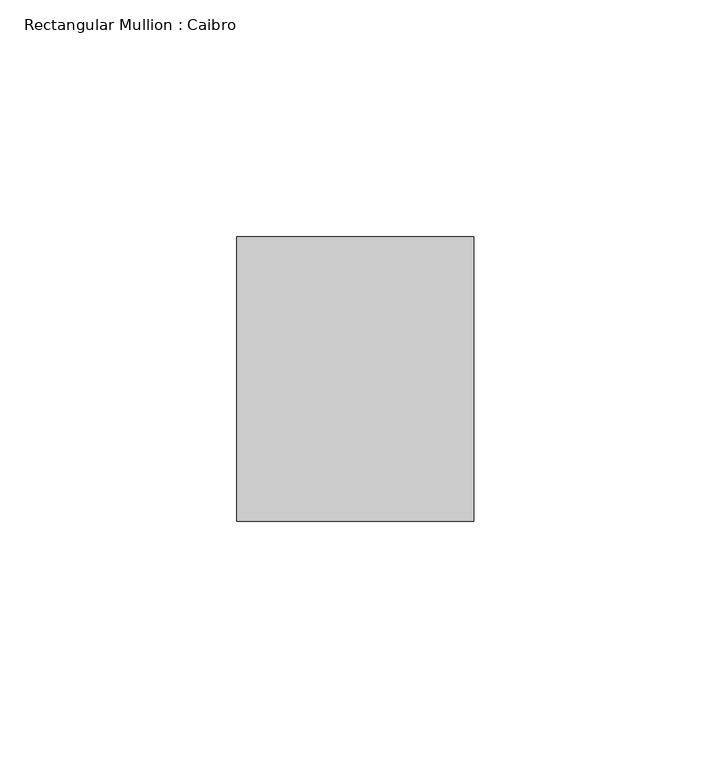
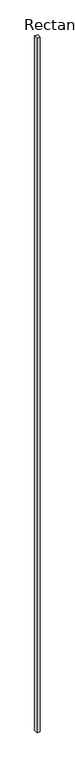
"""IFC4 building model written with IfcOpenShell, lengths in millimetres: member geometry, Rectangular Mullion : Caibro."""

from ifc_helpers import new_model, si_unit, frame, origin, place, context, project, spatial, polyline, outline, extrude, source, transform, mapped, element, save


def rectangular_mullion_caibro_03bd0296(model_context):
    return source(origin(), model_context, "Body", "SweptSolid", [
        extrude(outline(polyline([(-25.0, -60.0), (-25.0, 0.0), (25.0, 0.0), (25.0, -60.0), (-25.0, -60.0)])), frame((0.0, 0.0, -11882.614899), z_axis=(0.0, 0.0, 1.0), x_axis=(1.0, 0.0, 0.0)), (0.0, 0.0, 1.0), 11882.614899),
    ])


if __name__ == "__main__":
    model = new_model("IFC4")
    model_context = context("Model", 3, world=origin())
    ifc_project = project(units=[si_unit("LENGTHUNIT", "METRE", prefix="MILLI")], contexts=[model_context])
    site = spatial("IfcSite", under=ifc_project)
    building = spatial("IfcBuilding", under=site)
    placement = place(None, origin())
    rectangular_mullion_caibro_shape = rectangular_mullion_caibro_03bd0296(model_context)
    element("IfcMember", 1, ObjectType="Rectangular Mullion : Caibro", at=placement, inside=building, context=model_context, shape_type="MappedRepresentation", body=[
        mapped(rectangular_mullion_caibro_shape, transform((0.0, 0.0, 0.0), x_axis=(1.0, 0.0, 0.0), y_axis=(0.0, 1.0, 0.0), z_axis=(0.0, 0.0, 1.0))),
    ])
    save(model, "model.ifc")
